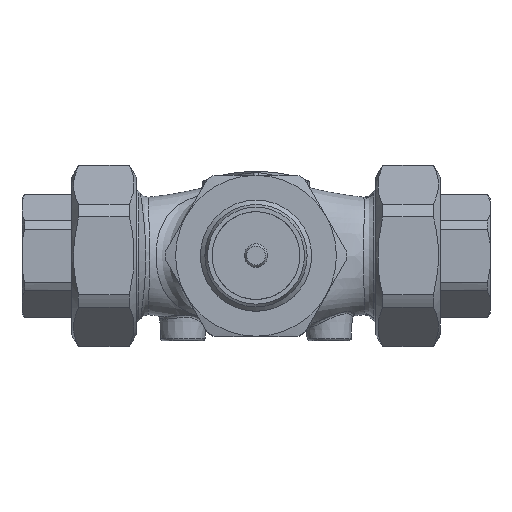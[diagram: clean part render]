
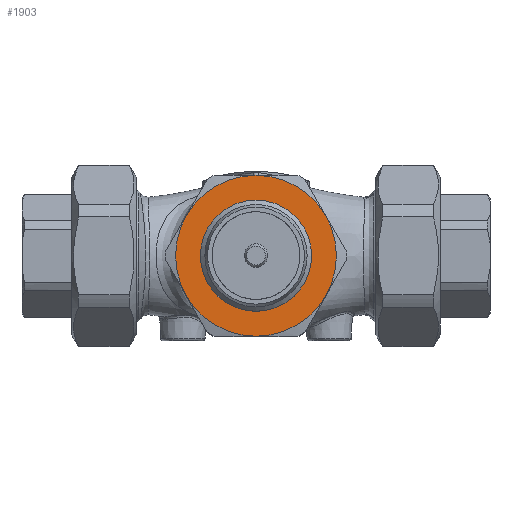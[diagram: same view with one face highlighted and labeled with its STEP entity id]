
A CAD part, top view. The second image highlights one B-rep face of the part: STEP entity #1903.
In plain terms, the highlighted planar face has unit normal (0, 0, 1).
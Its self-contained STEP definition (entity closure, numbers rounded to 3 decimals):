
#1199=PLANE('',#10279);
#1637=FACE_BOUND('',#3167,.T.);
#1638=FACE_BOUND('',#3168,.T.);
#1903=ADVANCED_FACE('',(#1637,#1638),#1199,.T.);
#3167=EDGE_LOOP('',(#4817));
#3168=EDGE_LOOP('',(#4818,#4819,#4820,#4821,#4822,#4823));
#3838=CIRCLE('',#10243,27.5);
#3840=CIRCLE('',#10246,27.5);
#3841=CIRCLE('',#10248,27.5);
#3844=CIRCLE('',#10252,27.5);
#3846=CIRCLE('',#10255,27.5);
#3853=CIRCLE('',#10273,27.5);
#3855=CIRCLE('',#10278,19.);
#4817=ORIENTED_EDGE('',*,*,#8424,.F.);
#4818=ORIENTED_EDGE('',*,*,#8373,.T.);
#4819=ORIENTED_EDGE('',*,*,#8377,.T.);
#4820=ORIENTED_EDGE('',*,*,#8385,.T.);
#4821=ORIENTED_EDGE('',*,*,#8389,.T.);
#4822=ORIENTED_EDGE('',*,*,#8417,.T.);
#4823=ORIENTED_EDGE('',*,*,#8379,.T.);
#7371=VERTEX_POINT('',#21124);
#7373=VERTEX_POINT('',#21131);
#7376=VERTEX_POINT('',#21145);
#7378=VERTEX_POINT('',#21154);
#7382=VERTEX_POINT('',#21173);
#7385=VERTEX_POINT('',#21187);
#7400=VERTEX_POINT('',#21294);
#8373=EDGE_CURVE('',#7371,#7373,#3838,.T.);
#8377=EDGE_CURVE('',#7373,#7376,#3840,.T.);
#8379=EDGE_CURVE('',#7378,#7371,#3841,.T.);
#8385=EDGE_CURVE('',#7376,#7382,#3844,.T.);
#8389=EDGE_CURVE('',#7382,#7385,#3846,.T.);
#8417=EDGE_CURVE('',#7385,#7378,#3853,.T.);
#8424=EDGE_CURVE('',#7400,#7400,#3855,.T.);
#10243=AXIS2_PLACEMENT_3D('',#21132,#11572,#11573);
#10246=AXIS2_PLACEMENT_3D('',#21146,#11578,#11579);
#10248=AXIS2_PLACEMENT_3D('',#21153,#11582,#11583);
#10252=AXIS2_PLACEMENT_3D('',#21174,#11590,#11591);
#10255=AXIS2_PLACEMENT_3D('',#21188,#11596,#11597);
#10273=AXIS2_PLACEMENT_3D('',#21272,#11642,#11643);
#10278=AXIS2_PLACEMENT_3D('',#21293,#11654,#11655);
#10279=AXIS2_PLACEMENT_3D('',#21295,#11656,#11657);
#11572=DIRECTION('',(0.,0.,1.));
#11573=DIRECTION('',(-1.,0.,0.));
#11578=DIRECTION('',(0.,0.,1.));
#11579=DIRECTION('',(-1.,0.,0.));
#11582=DIRECTION('',(0.,0.,1.));
#11583=DIRECTION('',(-1.,0.,0.));
#11590=DIRECTION('',(0.,0.,1.));
#11591=DIRECTION('',(-1.,0.,0.));
#11596=DIRECTION('',(0.,0.,1.));
#11597=DIRECTION('',(-1.,0.,0.));
#11642=DIRECTION('',(0.,0.,1.));
#11643=DIRECTION('',(-1.,0.,0.));
#11654=DIRECTION('',(0.,0.,1.));
#11655=DIRECTION('',(1.,0.,0.));
#11656=DIRECTION('',(0.,0.,1.));
#11657=DIRECTION('',(-1.,0.,0.));
#21124=CARTESIAN_POINT('',(-23.816,-13.75,48.));
#21131=CARTESIAN_POINT('',(0.,-27.5,48.));
#21132=CARTESIAN_POINT('',(0.,0.,48.));
#21145=CARTESIAN_POINT('',(23.816,-13.75,48.));
#21146=CARTESIAN_POINT('',(0.,0.,48.));
#21153=CARTESIAN_POINT('',(0.,0.,48.));
#21154=CARTESIAN_POINT('',(-23.816,13.75,48.));
#21173=CARTESIAN_POINT('',(23.816,13.75,48.));
#21174=CARTESIAN_POINT('',(0.,0.,48.));
#21187=CARTESIAN_POINT('',(0.,27.5,48.));
#21188=CARTESIAN_POINT('',(0.,0.,48.));
#21272=CARTESIAN_POINT('',(0.,0.,48.));
#21293=CARTESIAN_POINT('',(0.,0.,48.));
#21294=CARTESIAN_POINT('',(19.,0.,48.));
#21295=CARTESIAN_POINT('',(-19.5,0.,48.));
